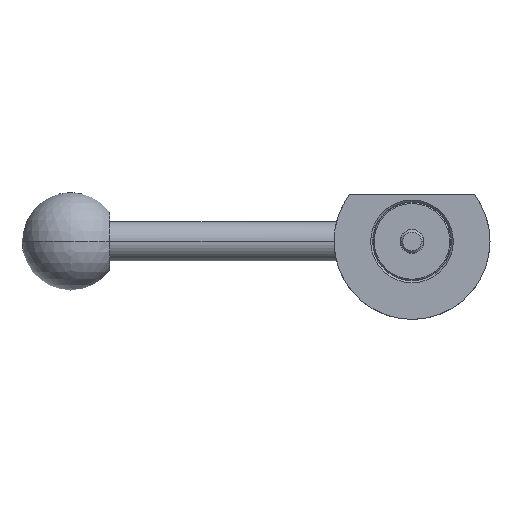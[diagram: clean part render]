
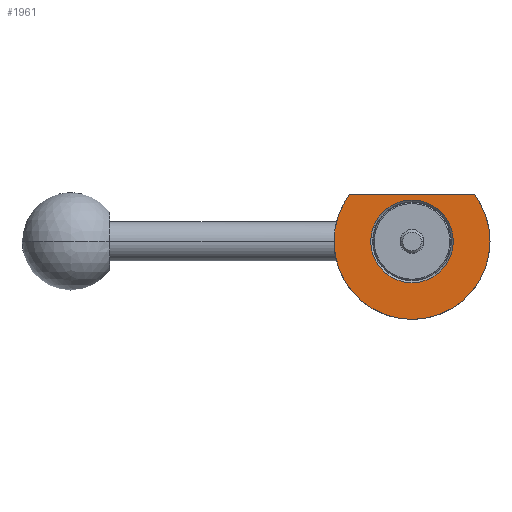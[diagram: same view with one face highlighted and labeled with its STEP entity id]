
A CAD part, front view. The second image highlights one B-rep face of the part: STEP entity #1961.
In plain terms, the highlighted planar face has unit normal (0, -1, 0).
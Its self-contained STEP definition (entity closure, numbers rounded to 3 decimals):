
#81 = FACE_OUTER_BOUND ( 'NONE', #359, .T. ) ;
#87 = CARTESIAN_POINT ( 'NONE',  ( -16.001, -10., 11.999 ) ) ;
#114 = VERTEX_POINT ( 'NONE', #1308 ) ;
#126 = LINE ( 'NONE', #1379, #294 ) ;
#127 = DIRECTION ( 'NONE',  ( 0., 1., 0. ) ) ;
#129 = CARTESIAN_POINT ( 'NONE',  ( 16.001, -10., 11.999 ) ) ;
#168 = EDGE_CURVE ( 'NONE', #1124, #904, #672, .T. ) ;
#199 = EDGE_CURVE ( 'NONE', #1124, #430, #126, .T. ) ;
#231 = AXIS2_PLACEMENT_3D ( 'NONE', #271, #1524, #1552 ) ;
#260 = DIRECTION ( 'NONE',  ( -1., 0., 0. ) ) ;
#265 = DIRECTION ( 'NONE',  ( -1., 0., 0. ) ) ;
#271 = CARTESIAN_POINT ( 'NONE',  ( 0., -10., 0. ) ) ;
#286 = VERTEX_POINT ( 'NONE', #528 ) ;
#288 = DIRECTION ( 'NONE',  ( 0., 1., 0. ) ) ;
#294 = VECTOR ( 'NONE', #609, 1000. ) ;
#307 = AXIS2_PLACEMENT_3D ( 'NONE', #1545, #127, #1718 ) ;
#344 = CIRCLE ( 'NONE', #307, 10.6 ) ;
#359 = EDGE_LOOP ( 'NONE', ( #807, #797, #1334, #781 ) ) ;
#424 = CARTESIAN_POINT ( 'NONE',  ( 0., -10., 0. ) ) ;
#430 = VERTEX_POINT ( 'NONE', #87 ) ;
#435 = VERTEX_POINT ( 'NONE', #1692 ) ;
#455 = ORIENTED_EDGE ( 'NONE', *, *, #1093, .T. ) ;
#528 = CARTESIAN_POINT ( 'NONE',  ( -10.6, -10., 0. ) ) ;
#574 = CIRCLE ( 'NONE', #1603, 10.6 ) ;
#609 = DIRECTION ( 'NONE',  ( -1., 0., 0. ) ) ;
#672 = CIRCLE ( 'NONE', #231, 20. ) ;
#678 = CARTESIAN_POINT ( 'NONE',  ( -10.6, -10., 0. ) ) ;
#687 = FACE_BOUND ( 'NONE', #1722, .T. ) ;
#716 = PLANE ( 'NONE',  #813 ) ;
#781 = ORIENTED_EDGE ( 'NONE', *, *, #857, .F. ) ;
#797 = ORIENTED_EDGE ( 'NONE', *, *, #199, .T. ) ;
#807 = ORIENTED_EDGE ( 'NONE', *, *, #168, .F. ) ;
#813 = AXIS2_PLACEMENT_3D ( 'NONE', #678, #1319, #845 ) ;
#845 = DIRECTION ( 'NONE',  ( 1., 0., 0. ) ) ;
#857 = EDGE_CURVE ( 'NONE', #904, #435, #2012, .T. ) ;
#904 = VERTEX_POINT ( 'NONE', #1696 ) ;
#1029 = ORIENTED_EDGE ( 'NONE', *, *, #1977, .T. ) ;
#1093 = EDGE_CURVE ( 'NONE', #286, #114, #574, .T. ) ;
#1124 = VERTEX_POINT ( 'NONE', #129 ) ;
#1136 = AXIS2_PLACEMENT_3D ( 'NONE', #424, #1711, #260 ) ;
#1235 = CIRCLE ( 'NONE', #1508, 20. ) ;
#1240 = DIRECTION ( 'NONE',  ( -1., 0., 0. ) ) ;
#1308 = CARTESIAN_POINT ( 'NONE',  ( 10.6, -10., 0. ) ) ;
#1319 = DIRECTION ( 'NONE',  ( 0., -1., 0. ) ) ;
#1334 = ORIENTED_EDGE ( 'NONE', *, *, #1553, .F. ) ;
#1379 = CARTESIAN_POINT ( 'NONE',  ( -10.6, -10., 11.999 ) ) ;
#1429 = CARTESIAN_POINT ( 'NONE',  ( 0., -10., 0. ) ) ;
#1508 = AXIS2_PLACEMENT_3D ( 'NONE', #2009, #1702, #265 ) ;
#1524 = DIRECTION ( 'NONE',  ( 0., 1., 0. ) ) ;
#1545 = CARTESIAN_POINT ( 'NONE',  ( 0., -10., 0. ) ) ;
#1552 = DIRECTION ( 'NONE',  ( -1., 0., 0. ) ) ;
#1553 = EDGE_CURVE ( 'NONE', #435, #430, #1235, .T. ) ;
#1603 = AXIS2_PLACEMENT_3D ( 'NONE', #1429, #288, #1240 ) ;
#1692 = CARTESIAN_POINT ( 'NONE',  ( -20., -10., 0. ) ) ;
#1696 = CARTESIAN_POINT ( 'NONE',  ( 20., -10., 0. ) ) ;
#1702 = DIRECTION ( 'NONE',  ( 0., 1., 0. ) ) ;
#1711 = DIRECTION ( 'NONE',  ( 0., 1., 0. ) ) ;
#1718 = DIRECTION ( 'NONE',  ( -1., 0., 0. ) ) ;
#1722 = EDGE_LOOP ( 'NONE', ( #1029, #455 ) ) ;
#1961 = ADVANCED_FACE ( 'NONE', ( #687, #81 ), #716, .T. ) ;
#1977 = EDGE_CURVE ( 'NONE', #114, #286, #344, .T. ) ;
#2009 = CARTESIAN_POINT ( 'NONE',  ( 0., -10., 0. ) ) ;
#2012 = CIRCLE ( 'NONE', #1136, 20. ) ;
